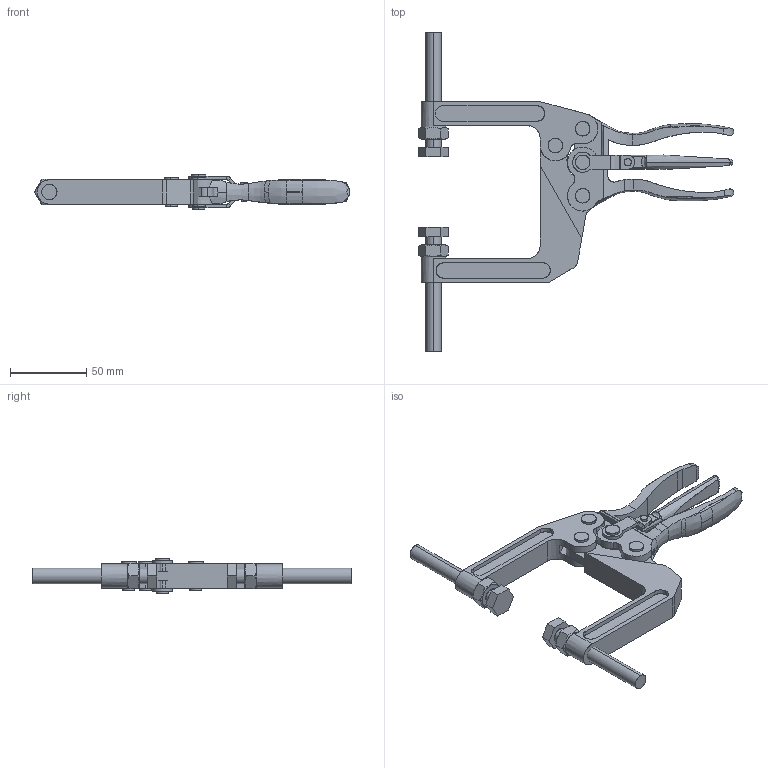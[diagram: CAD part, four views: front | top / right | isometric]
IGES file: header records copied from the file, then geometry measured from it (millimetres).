
Start section: SolidWorks IGES file using analytic representation for surfaces
Global section: file name: C:\Projetos\Grampos\Alicates\KFA-70\KFA-70.igs; native system: SolidWorks 2011; preprocessor: SolidWorks 2011; author: Usuario; date: 110512.122054; units: millimetre
Bounding box: 206.81 x 209 x 23.5 mm (x, y, z)
Surface area: 55970.5 mm2 (no closed solid volume)
Topology: 0 solids, 0 shells, 398 faces, 6232 edges, 6224 vertices
Faces by surface type: revolution 225, bspline 173
